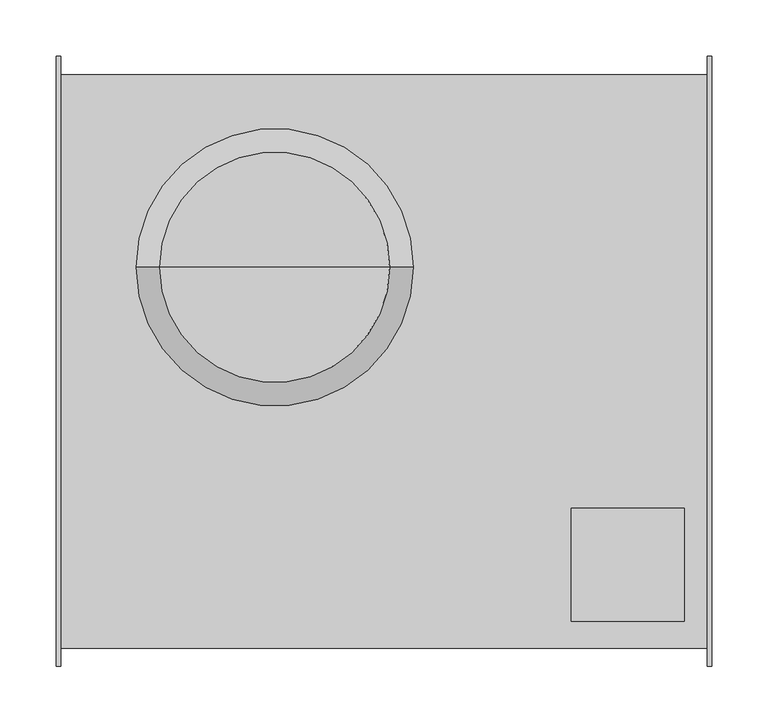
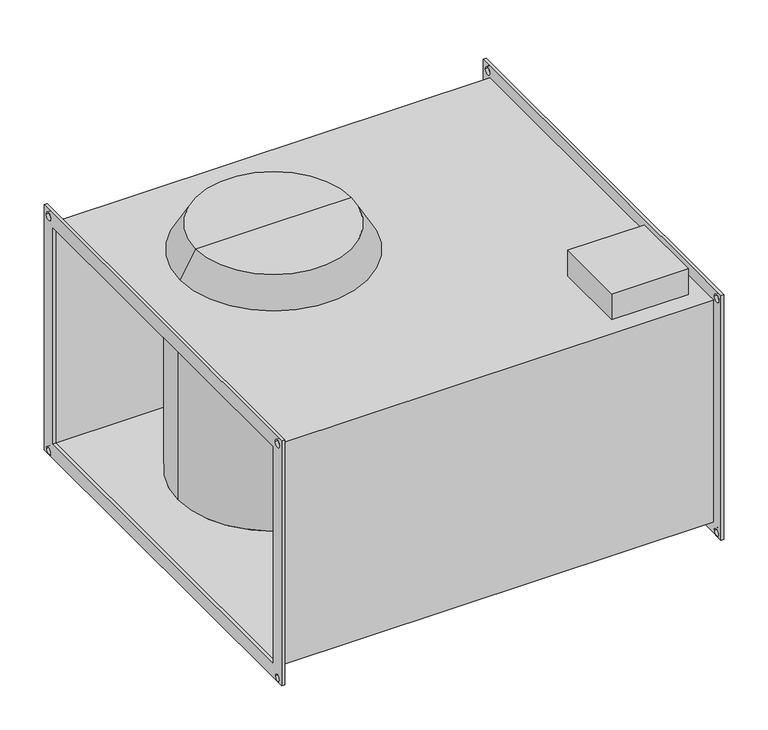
"""IFC4 building model written with IfcOpenShell, lengths in millimetres: proxy geometry."""

import ifcopenshell
import ifcopenshell.guid

model = None  # the IFC model being written
_history = None  # IfcOwnerHistory: only IFC2X3 demands one
_inside = {}  # id of a spatial element -> (the spatial element, [elements in it])
_under = {}  # id of a project, library or spatial element -> (it, [spatial elements below it])
_declared = {}  # id of a project -> (the project, [libraries it declares])
_typed = {}  # id of a type object -> (the type object, [elements of that type])
_made_of = {}  # id of a material, layer set ... -> (it, [elements and type objects made of it])


def new_model(schema):
    """Start an empty IFC model of exactly this schema.

    Asked for "IFC4X3", IfcOpenShell would pick the latest addendum, in which some entities
    have other attributes; the version numbers below select the first issue.
    IFC2X3 requires an IfcOwnerHistory on every rooted entity: one is made here for all.
    """
    global model, _history
    if schema == "IFC4X3":
        model = ifcopenshell.file(schema_version=(4, 3, 0, 0))
    else:
        model = ifcopenshell.file(schema=schema)
    _inside.clear()
    _under.clear()
    _declared.clear()
    _typed.clear()
    _made_of.clear()
    _history = None
    if model.schema == "IFC2X3":
        org = make("IfcOrganization", Name="unknown")
        user = make(
            "IfcPersonAndOrganization",
            ThePerson=make("IfcPerson", FamilyName="unknown"),
            TheOrganization=org,
        )
        app = make(
            "IfcApplication",
            ApplicationDeveloper=org,
            Version="unknown",
            ApplicationFullName="unknown",
            ApplicationIdentifier="unknown",
        )
        _history = make(
            "IfcOwnerHistory",
            OwningUser=user,
            OwningApplication=app,
            ChangeAction="ADDED",
            CreationDate=0,
        )
    return model


def make(cls, **values):
    """One entity of the class cls with the attributes given. An attribute that is None is left unset."""
    return model.create_entity(
        cls, **{name: value for name, value in values.items() if value is not None}
    )


def rooted(cls, **values):
    """An entity with a GlobalId (a new one), such as an element, a storey or a relation."""
    return make(cls, GlobalId=ifcopenshell.guid.new(), OwnerHistory=_history, **values)


def si_unit(unit_type, name, prefix=None):
    """IfcSIUnit, for example si_unit("LENGTHUNIT", "METRE", prefix="MILLI")."""
    return make("IfcSIUnit", UnitType=unit_type, Prefix=prefix, Name=name)


def assignment(units):
    """IfcUnitAssignment: the units of a project."""
    return None if units is None else make("IfcUnitAssignment", Units=units)


def point(xyz):
    """IfcCartesianPoint."""
    return None if xyz is None else make("IfcCartesianPoint", Coordinates=xyz)


def direction(xyz):
    """IfcDirection."""
    return None if xyz is None else make("IfcDirection", DirectionRatios=xyz)


def frame(location, z_axis=None, x_axis=None):
    """IfcAxis2Placement3D, a coordinate frame: its origin and axes. An axis left out is left unset."""
    return make(
        "IfcAxis2Placement3D",
        Location=point(location),
        Axis=direction(z_axis),
        RefDirection=direction(x_axis),
    )


def origin():
    """The frame at (0, 0, 0) with its axes left unset."""
    return frame((0.0, 0.0, 0.0))


def place(relative_to, where):
    """IfcLocalPlacement: puts the frame where relative to a parent placement (None: the world)."""
    return make(
        "IfcLocalPlacement", PlacementRelTo=relative_to, RelativePlacement=where
    )


def context(
    kind, dimensions, precision=None, world=None, true_north=None, identifier=None
):
    """IfcGeometricRepresentationContext, for example the 3D "Model" context."""
    return make(
        "IfcGeometricRepresentationContext",
        ContextIdentifier=identifier,
        ContextType=kind,
        CoordinateSpaceDimension=dimensions,
        Precision=precision,
        WorldCoordinateSystem=world,
        TrueNorth=true_north,
    )


def project(units=None, contexts=None):
    """IfcProject with its units and contexts."""
    return rooted(
        "IfcProject",
        Name="project",
        RepresentationContexts=contexts,
        UnitsInContext=assignment(units),
    )


def spatial(cls, under=None, at=None, **own):
    """A site, building, storey or space (cls), placed at a placement, below another one or the project."""
    s = rooted(cls, ObjectPlacement=at, **own)
    if under is not None:
        _under.setdefault(under.id(), (under, []))[1].append(s)
    return s


def polyline(points):
    """IfcPolyline through the points."""
    return make("IfcPolyline", Points=[point(p) for p in points])


def circle_curve(where, radius):
    """IfcCircle in the frame where."""
    return make("IfcCircle", Position=where, Radius=radius)


def shape(context_of_items, identifier, shape_type, items):
    """IfcShapeRepresentation: the items that make up one representation, for example the "Body"."""
    return make(
        "IfcShapeRepresentation",
        ContextOfItems=context_of_items,
        RepresentationIdentifier=identifier,
        RepresentationType=shape_type,
        Items=items,
    )


def source(mapping_origin, context_of_items, identifier, shape_type, items):
    """IfcRepresentationMap: a shape defined once, which mapped items show again and again."""
    return make(
        "IfcRepresentationMap",
        MappingOrigin=mapping_origin,
        MappedRepresentation=shape(context_of_items, identifier, shape_type, items),
    )


def transform(
    local_origin,
    x_axis=None,
    y_axis=None,
    z_axis=None,
    scale=None,
    scale2=None,
    scale3=None,
    uniform=True,
):
    """IfcCartesianTransformationOperator3D, or its non-uniform kind. x_axis, y_axis, z_axis: its Axis1, 2, 3."""
    if uniform:
        return make(
            "IfcCartesianTransformationOperator3D",
            Axis1=direction(x_axis),
            Axis2=direction(y_axis),
            LocalOrigin=point(local_origin),
            Scale=scale,
            Axis3=direction(z_axis),
        )
    return make(
        "IfcCartesianTransformationOperator3DnonUniform",
        Axis1=direction(x_axis),
        Axis2=direction(y_axis),
        LocalOrigin=point(local_origin),
        Scale=scale,
        Axis3=direction(z_axis),
        Scale2=scale2,
        Scale3=scale3,
    )


def mapped(mapping_source, mapping_target):
    """IfcMappedItem: shows the shape of a source again, moved by a transform."""
    return make(
        "IfcMappedItem", MappingSource=mapping_source, MappingTarget=mapping_target
    )


def made_of(thing, what):
    """Note that an element or type object is made of a material, layer set ...; save() writes the relation."""
    if what is not None:
        _made_of.setdefault(what.id(), (what, []))[1].append(thing)
    return thing


def element(
    cls,
    number,
    at=None,
    inside=None,
    cuts=None,
    type_object=None,
    material=None,
    context=None,
    identifier="Body",
    shape_type=None,
    held_by="IfcProductDefinitionShape",
    body=None,
    shapes=None,
    **own,
):
    """One element of the class cls, such as IfcWall. Its Tag is "e" and its number.

    at: its placement. inside: the storey or other place that contains it. cuts: it is an
    opening in that element (IfcRelVoidsElement). A single representation is given by context,
    identifier, shape_type and body (its items); several are given by shapes. held_by: the class
    of the entity that holds the representations. save() writes the other relations.
    """
    e = rooted(cls, Tag="e%d" % number, ObjectPlacement=at, **own)
    if body is not None:
        shapes = [shape(context, identifier, shape_type, body)]
    if shapes is not None:
        e.Representation = make(held_by, Representations=shapes)
    if inside is not None:
        _inside.setdefault(inside.id(), (inside, []))[1].append(e)
    if cuts is not None:
        rooted(
            "IfcRelVoidsElement", RelatingBuildingElement=cuts, RelatedOpeningElement=e
        )
    if type_object is not None:
        _typed.setdefault(type_object.id(), (type_object, []))[1].append(e)
    return made_of(e, material)


def aggregate(whole, parts):
    """IfcRelAggregates: a whole, such as a stair, and the parts it consists of."""
    return rooted("IfcRelAggregates", RelatingObject=whole, RelatedObjects=parts)


def save(model, path):
    """Write the relations noted so far, then the file.

    IfcRelAggregates (storeys below a building ...), IfcRelContainedInSpatialStructure (elements
    in a storey), IfcRelDefinesByType, IfcRelAssociatesMaterial and IfcRelDeclares: one each for
    every whole, place, type object, material and project.
    """
    for whole, parts in _under.values():
        aggregate(whole, parts)
    for where, things in _inside.values():
        rooted(
            "IfcRelContainedInSpatialStructure",
            RelatedElements=things,
            RelatingStructure=where,
        )
    for kind, things in _typed.values():
        rooted("IfcRelDefinesByType", RelatedObjects=things, RelatingType=kind)
    for what, things in _made_of.values():
        rooted("IfcRelAssociatesMaterial", RelatedObjects=things, RelatingMaterial=what)
    for by, libraries in _declared.values():
        rooted("IfcRelDeclares", RelatingContext=by, RelatedDefinitions=libraries)
    model.write(path)


def plane_surface(at):
    """IfcPlane: the flat surface through the origin of the frame at, square to its z axis."""
    return make("IfcPlane", Position=at)


def cylinder_surface(at, radius):
    """IfcCylindricalSurface: all points at the distance radius from the z axis of the frame at."""
    return make("IfcCylindricalSurface", Position=at, Radius=radius)


def revolved_surface(curve, axis_point, axis_direction):
    """IfcSurfaceOfRevolution: the curve turned about the line through axis_point along axis_direction."""
    return make(
        "IfcSurfaceOfRevolution",
        SweptCurve=make("IfcArbitraryOpenProfileDef", ProfileType="CURVE", Curve=curve),
        AxisPosition=make("IfcAxis1Placement", Location=point(axis_point), Axis=direction(axis_direction)),
    )


def advanced_brep(points, edges, surfaces, faces):
    """IfcAdvancedBrep: a solid bounded by faces that lie on surfaces and meet in shared edges.

    An edge is (start, end): straight between two places in points (the first is 0);
    or (start, end, curve); or (start, end, curve, False) where it runs against its curve.
    A face is (place in surfaces, loops), or (place, loops, False) where it looks against
    its surface's normal. A loop lists edges by number (the first is 1), with a minus sign
    where the edge is run from its end to its start. The first loop is the outer one.
    """
    corners = [point(p) for p in points]
    vertices = [make("IfcVertexPoint", VertexGeometry=c) for c in corners]
    made = []
    for start, end, *more in edges:
        made.append(
            make(
                "IfcEdgeCurve",
                EdgeStart=vertices[start],
                EdgeEnd=vertices[end],
                EdgeGeometry=more[0] if more else make("IfcPolyline", Points=[corners[start], corners[end]]),
                SameSense=more[1] if len(more) > 1 else True,
            )
        )
    hull = []
    for where, loops, *sense in faces:
        bounds = []
        for j, loop in enumerate(loops):
            ring = [make("IfcOrientedEdge", EdgeElement=made[abs(k) - 1], Orientation=k > 0) for k in loop]
            bounds.append(
                make(
                    "IfcFaceOuterBound" if j == 0 else "IfcFaceBound",
                    Bound=make("IfcEdgeLoop", EdgeList=ring),
                    Orientation=True,
                )
            )
        hull.append(make("IfcAdvancedFace", Bounds=bounds, FaceSurface=surfaces[where], SameSense=sense[0] if sense else True))
    return make("IfcAdvancedBrep", Outer=make("IfcClosedShell", CfsFaces=hull))


def mechanical_equipment_16ef5390(model_context):
    return source(origin(), model_context, "Body", "AdvancedBrep", [
        advanced_brep(
        [(286.0, 270.0, 170.0), (286.0, 270.0, -170.0), (286.0, 260.0, -170.0), (286.0, 265.0, -165.0), (286.0, 255.0, -165.0), (286.0, -260.0, -170.0), (286.0, -255.0, -165.0), (286.0, -265.0, -165.0), (286.0, -270.0, -170.0), (286.0, -270.0, 170.0), (286.0, 250.0, 150.0), (286.0, -250.0, 150.0), (286.0, -250.0, -150.0), (286.0, 250.0, -150.0), (286.0, 255.0, 160.0), (286.0, 265.0, 160.0), (286.0, -265.0, 160.0), (286.0, -255.0, 160.0), (290.0, 270.0, 170.0), (290.0, -270.0, 170.0), (290.0, -270.0, -170.0), (290.0, -260.0, -170.0), (290.0, -265.0, -165.0), (290.0, -255.0, -165.0), (290.0, 260.0, -170.0), (290.0, 255.0, -165.0), (290.0, 265.0, -165.0), (290.0, 270.0, -170.0), (290.0, 250.0, 150.0), (290.0, 250.0, -150.0), (290.0, -250.0, -150.0), (290.0, -250.0, 150.0), (290.0, 265.0, 160.0), (290.0, 255.0, 160.0), (290.0, -255.0, 160.0), (290.0, -265.0, 160.0)],
        [
            (0, 1),
            (1, 2),
            (2, 3, circle_curve(frame((286.0, 260.0, -165.0), z_axis=(1.0, 0.0, 0.0), x_axis=(0.0, 1.0, 0.0)), 5.0)),
            (3, 4, circle_curve(frame((286.0, 260.0, -165.0), z_axis=(1.0, 0.0, 0.0), x_axis=(0.0, 1.0, 0.0)), 5.0)),
            (4, 2, circle_curve(frame((286.0, 260.0, -165.0), z_axis=(1.0, 0.0, 0.0), x_axis=(0.0, 1.0, 0.0)), 5.0)),
            (2, 5),
            (5, 6, circle_curve(frame((286.0, -260.0, -165.0), z_axis=(1.0, 0.0, 0.0), x_axis=(0.0, 1.0, 0.0)), 5.0)),
            (6, 7, circle_curve(frame((286.0, -260.0, -165.0), z_axis=(1.0, 0.0, 0.0), x_axis=(0.0, 1.0, 0.0)), 5.0)),
            (7, 5, circle_curve(frame((286.0, -260.0, -165.0), z_axis=(1.0, 0.0, 0.0), x_axis=(0.0, 1.0, 0.0)), 5.0)),
            (5, 8),
            (8, 9),
            (9, 0),
            (10, 11),
            (11, 12),
            (12, 13),
            (13, 10),
            (14, 15, circle_curve(frame((286.0, 260.0, 160.0), z_axis=(1.0, 0.0, 0.0), x_axis=(0.0, 1.0, 0.0)), 5.0)),
            (15, 14, circle_curve(frame((286.0, 260.0, 160.0), z_axis=(1.0, 0.0, 0.0), x_axis=(0.0, 1.0, 0.0)), 5.0)),
            (16, 17, circle_curve(frame((286.0, -260.0, 160.0), z_axis=(1.0, 0.0, 0.0), x_axis=(0.0, 1.0, 0.0)), 5.0)),
            (17, 16, circle_curve(frame((286.0, -260.0, 160.0), z_axis=(1.0, 0.0, 0.0), x_axis=(0.0, 1.0, 0.0)), 5.0)),
            (18, 19),
            (19, 20),
            (20, 21),
            (21, 22, circle_curve(frame((290.0, -260.0, -165.0), z_axis=(-1.0, 0.0, 0.0), x_axis=(0.0, 1.0, 0.0)), 5.0)),
            (22, 23, circle_curve(frame((290.0, -260.0, -165.0), z_axis=(-1.0, 0.0, 0.0), x_axis=(0.0, 1.0, 0.0)), 5.0)),
            (23, 21, circle_curve(frame((290.0, -260.0, -165.0), z_axis=(-1.0, 0.0, 0.0), x_axis=(0.0, 1.0, 0.0)), 5.0)),
            (21, 24),
            (24, 25, circle_curve(frame((290.0, 260.0, -165.0), z_axis=(-1.0, 0.0, 0.0), x_axis=(0.0, 1.0, 0.0)), 5.0)),
            (25, 26, circle_curve(frame((290.0, 260.0, -165.0), z_axis=(-1.0, 0.0, 0.0), x_axis=(0.0, 1.0, 0.0)), 5.0)),
            (26, 24, circle_curve(frame((290.0, 260.0, -165.0), z_axis=(-1.0, 0.0, 0.0), x_axis=(0.0, 1.0, 0.0)), 5.0)),
            (24, 27),
            (27, 18),
            (28, 29),
            (29, 30),
            (30, 31),
            (31, 28),
            (32, 33, circle_curve(frame((290.0, 260.0, 160.0), z_axis=(-1.0, 0.0, 0.0), x_axis=(0.0, 1.0, 0.0)), 5.0)),
            (33, 32, circle_curve(frame((290.0, 260.0, 160.0), z_axis=(-1.0, 0.0, 0.0), x_axis=(0.0, 1.0, 0.0)), 5.0)),
            (34, 35, circle_curve(frame((290.0, -260.0, 160.0), z_axis=(-1.0, 0.0, 0.0), x_axis=(0.0, 1.0, 0.0)), 5.0)),
            (35, 34, circle_curve(frame((290.0, -260.0, 160.0), z_axis=(-1.0, 0.0, 0.0), x_axis=(0.0, 1.0, 0.0)), 5.0)),
            (13, 29),
            (28, 10),
            (12, 30),
            (11, 31),
            (9, 19),
            (18, 0),
            (8, 20),
            (1, 27),
            (14, 33),
            (32, 15),
            (16, 35),
            (34, 17),
            (7, 22),
            (23, 6),
            (4, 25),
            (26, 3),
        ],
        [
            plane_surface(frame((286.0, 250.0, -150.0), z_axis=(-1.0, 0.0, 0.0), x_axis=(0.0, 0.0, 1.0))),
            plane_surface(frame((290.0, 250.0, -150.0), z_axis=(1.0, 0.0, 0.0), x_axis=(0.0, 0.0, -1.0))),
            plane_surface(frame((290.0, 250.0, 150.0), z_axis=(0.0, -1.0, 0.0), x_axis=(-1.0, 0.0, 0.0))),
            plane_surface(frame((290.0, 250.0, -150.0), z_axis=(0.0, 0.0, 1.0), x_axis=(-1.0, 0.0, 0.0))),
            plane_surface(frame((290.0, -250.0, -150.0), z_axis=(0.0, 1.0, 0.0), x_axis=(-1.0, 0.0, 0.0))),
            plane_surface(frame((290.0, -250.0, 150.0), z_axis=(0.0, 0.0, -1.0), x_axis=(-1.0, 0.0, 0.0))),
            plane_surface(frame((290.0, 270.0, 170.0), z_axis=(0.0, 0.0, 1.0), x_axis=(-1.0, 0.0, 0.0))),
            plane_surface(frame((290.0, -270.0, 170.0), z_axis=(0.0, -1.0, 0.0), x_axis=(-1.0, 0.0, 0.0))),
            plane_surface(frame((290.0, -270.0, -170.0), z_axis=(0.0, 0.0, -1.0), x_axis=(-1.0, 0.0, 0.0))),
            plane_surface(frame((290.0, 270.0, -170.0), z_axis=(0.0, 1.0, 0.0), x_axis=(-1.0, 0.0, 0.0))),
            revolved_surface(polyline([(290.0, 265.0, 160.0), (286.0, 265.0, 160.0)]), (-290.0, 260.0, 160.0), (1.0, 0.0, 0.0)),
            revolved_surface(polyline([(290.0, -255.0, 160.0), (286.0, -255.0, 160.0)]), (0.0, -260.0, 160.0), (1.0, 0.0, 0.0)),
            revolved_surface(polyline([(290.0, -255.0, -165.0), (286.0, -255.0, -165.0)]), (0.0, -260.0, -165.0), (1.0, 0.0, 0.0)),
            revolved_surface(polyline([(290.0, 265.0, -165.0), (286.0, 265.0, -165.0)]), (0.0, 260.0, -165.0), (1.0, 0.0, 0.0)),
        ],
        [
            (0, [[1, 2, 3, 4, 5, 6, 7, 8, 9, 10, 11, 12], [13, 14, 15, 16], [17, 18], [19, 20]]),
            (1, [[21, 22, 23, 24, 25, 26, 27, 28, 29, 30, 31, 32], [33, 34, 35, 36], [37, 38], [39, 40]]),
            (2, [[-16, 41, -33, 42]]),
            (3, [[-15, 43, -34, -41]]),
            (4, [[-14, 44, -35, -43]]),
            (5, [[-13, -42, -36, -44]]),
            (6, [[-12, 45, -21, 46]]),
            (7, [[-11, 47, -22, -45]]),
            (8, [[-47, -10, -6, -2, 48, -31, -27, -23]]),
            (9, [[-1, -46, -32, -48]]),
            (10, [[49, -37, 50, -17]]),
            (10, [[-49, -18, -50, -38]]),
            (11, [[51, -39, 52, -19]]),
            (11, [[-51, -20, -52, -40]]),
            (12, [[53, -24, -26, 54, -7, -9]]),
            (12, [[-53, -8, -54, -25]]),
            (13, [[55, -28, -30, 56, -3, -5]]),
            (13, [[-55, -4, -56, -29]]),
        ],
    ),
        advanced_brep(
        [(-290.0, -270.0, 170.0), (-290.0, 270.0, 170.0), (-290.0, 270.0, -170.0), (-290.0, 260.0, -170.0), (-290.0, 265.0, -165.0), (-290.0, 255.0, -165.0), (-290.0, -260.0, -170.0), (-290.0, -255.0, -165.0), (-290.0, -265.0, -165.0), (-290.0, -270.0, -170.0), (-290.0, -250.0, 150.0), (-290.0, -250.0, -150.0), (-290.0, 250.0, -150.0), (-290.0, 250.0, 150.0), (-290.0, 255.0, 160.0), (-290.0, 265.0, 160.0), (-290.0, -265.0, 160.0), (-290.0, -255.0, 160.0), (-286.0, -270.0, 170.0), (-286.0, -270.0, -170.0), (-286.0, -260.0, -170.0), (-286.0, -265.0, -165.0), (-286.0, -255.0, -165.0), (-286.0, 260.0, -170.0), (-286.0, 255.0, -165.0), (-286.0, 265.0, -165.0), (-286.0, 270.0, -170.0), (-286.0, 270.0, 170.0), (-286.0, -250.0, 150.0), (-286.0, 250.0, 150.0), (-286.0, 250.0, -150.0), (-286.0, -250.0, -150.0), (-286.0, 265.0, 160.0), (-286.0, 255.0, 160.0), (-286.0, -255.0, 160.0), (-286.0, -265.0, 160.0)],
        [
            (0, 1),
            (1, 2),
            (2, 3),
            (3, 4, circle_curve(frame((-290.0, 260.0, -165.0), z_axis=(1.0, 0.0, 0.0), x_axis=(0.0, 1.0, 0.0)), 5.0)),
            (4, 5, circle_curve(frame((-290.0, 260.0, -165.0), z_axis=(1.0, 0.0, 0.0), x_axis=(0.0, 1.0, 0.0)), 5.0)),
            (5, 3, circle_curve(frame((-290.0, 260.0, -165.0), z_axis=(1.0, 0.0, 0.0), x_axis=(0.0, 1.0, 0.0)), 5.0)),
            (3, 6),
            (6, 7, circle_curve(frame((-290.0, -260.0, -165.0), z_axis=(1.0, 0.0, 0.0), x_axis=(0.0, 1.0, 0.0)), 5.0)),
            (7, 8, circle_curve(frame((-290.0, -260.0, -165.0), z_axis=(1.0, 0.0, 0.0), x_axis=(0.0, 1.0, 0.0)), 5.0)),
            (8, 6, circle_curve(frame((-290.0, -260.0, -165.0), z_axis=(1.0, 0.0, 0.0), x_axis=(0.0, 1.0, 0.0)), 5.0)),
            (6, 9),
            (9, 0),
            (10, 11),
            (11, 12),
            (12, 13),
            (13, 10),
            (14, 15, circle_curve(frame((-290.0, 260.0, 160.0), z_axis=(1.0, 0.0, 0.0), x_axis=(0.0, 1.0, 0.0)), 5.0)),
            (15, 14, circle_curve(frame((-290.0, 260.0, 160.0), z_axis=(1.0, 0.0, 0.0), x_axis=(0.0, 1.0, 0.0)), 5.0)),
            (16, 17, circle_curve(frame((-290.0, -260.0, 160.0), z_axis=(1.0, 0.0, 0.0), x_axis=(0.0, 1.0, 0.0)), 5.0)),
            (17, 16, circle_curve(frame((-290.0, -260.0, 160.0), z_axis=(1.0, 0.0, 0.0), x_axis=(0.0, 1.0, 0.0)), 5.0)),
            (18, 19),
            (19, 20),
            (20, 21, circle_curve(frame((-286.0, -260.0, -165.0), z_axis=(-1.0, 0.0, 0.0), x_axis=(0.0, 1.0, 0.0)), 5.0)),
            (21, 22, circle_curve(frame((-286.0, -260.0, -165.0), z_axis=(-1.0, 0.0, 0.0), x_axis=(0.0, 1.0, 0.0)), 5.0)),
            (22, 20, circle_curve(frame((-286.0, -260.0, -165.0), z_axis=(-1.0, 0.0, 0.0), x_axis=(0.0, 1.0, 0.0)), 5.0)),
            (20, 23),
            (23, 24, circle_curve(frame((-286.0, 260.0, -165.0), z_axis=(-1.0, 0.0, 0.0), x_axis=(0.0, 1.0, 0.0)), 5.0)),
            (24, 25, circle_curve(frame((-286.0, 260.0, -165.0), z_axis=(-1.0, 0.0, 0.0), x_axis=(0.0, 1.0, 0.0)), 5.0)),
            (25, 23, circle_curve(frame((-286.0, 260.0, -165.0), z_axis=(-1.0, 0.0, 0.0), x_axis=(0.0, 1.0, 0.0)), 5.0)),
            (23, 26),
            (26, 27),
            (27, 18),
            (28, 29),
            (29, 30),
            (30, 31),
            (31, 28),
            (32, 33, circle_curve(frame((-286.0, 260.0, 160.0), z_axis=(-1.0, 0.0, 0.0), x_axis=(0.0, 1.0, 0.0)), 5.0)),
            (33, 32, circle_curve(frame((-286.0, 260.0, 160.0), z_axis=(-1.0, 0.0, 0.0), x_axis=(0.0, 1.0, 0.0)), 5.0)),
            (34, 35, circle_curve(frame((-286.0, -260.0, 160.0), z_axis=(-1.0, 0.0, 0.0), x_axis=(0.0, 1.0, 0.0)), 5.0)),
            (35, 34, circle_curve(frame((-286.0, -260.0, 160.0), z_axis=(-1.0, 0.0, 0.0), x_axis=(0.0, 1.0, 0.0)), 5.0)),
            (9, 19),
            (18, 0),
            (2, 26),
            (1, 27),
            (13, 29),
            (28, 10),
            (12, 30),
            (11, 31),
            (14, 33),
            (32, 15),
            (16, 35),
            (34, 17),
            (8, 21),
            (22, 7),
            (5, 24),
            (25, 4),
        ],
        [
            plane_surface(frame((-290.0, -270.0, 170.0), z_axis=(-1.0, 0.0, 0.0), x_axis=(0.0, 0.0, 1.0))),
            plane_surface(frame((-286.0, -270.0, 170.0), z_axis=(1.0, 0.0, 0.0), x_axis=(0.0, 0.0, -1.0))),
            plane_surface(frame((-286.0, -270.0, 170.0), z_axis=(0.0, -1.0, 0.0), x_axis=(-1.0, 0.0, 0.0))),
            plane_surface(frame((-286.0, -270.0, -170.0), z_axis=(0.0, 0.0, -1.0), x_axis=(-1.0, 0.0, 0.0))),
            plane_surface(frame((-286.0, 270.0, -170.0), z_axis=(0.0, 1.0, 0.0), x_axis=(-1.0, 0.0, 0.0))),
            plane_surface(frame((-286.0, 270.0, 170.0), z_axis=(0.0, 0.0, 1.0), x_axis=(-1.0, 0.0, 0.0))),
            plane_surface(frame((-286.0, -250.0, 150.0), z_axis=(0.0, 0.0, -1.0), x_axis=(-1.0, 0.0, 0.0))),
            plane_surface(frame((-286.0, 250.0, 150.0), z_axis=(0.0, -1.0, 0.0), x_axis=(-1.0, 0.0, 0.0))),
            plane_surface(frame((-286.0, 250.0, -150.0), z_axis=(0.0, 0.0, 1.0), x_axis=(-1.0, 0.0, 0.0))),
            plane_surface(frame((-286.0, -250.0, -150.0), z_axis=(0.0, 1.0, 0.0), x_axis=(-1.0, 0.0, 0.0))),
            revolved_surface(polyline([(-286.0, 265.0, 160.0), (-290.0, 265.0, 160.0)]), (-290.0, 260.0, 160.0), (1.0, 0.0, 0.0)),
            revolved_surface(polyline([(-286.0, -255.0, 160.0), (-290.0, -255.0, 160.0)]), (0.0, -260.0, 160.0), (1.0, 0.0, 0.0)),
            revolved_surface(polyline([(-286.0, -255.0, -165.0), (-290.0, -255.0, -165.0)]), (0.0, -260.0, -165.0), (1.0, 0.0, 0.0)),
            revolved_surface(polyline([(-286.0, 265.0, -165.0), (-290.0, 265.0, -165.0)]), (0.0, 260.0, -165.0), (1.0, 0.0, 0.0)),
        ],
        [
            (0, [[1, 2, 3, 4, 5, 6, 7, 8, 9, 10, 11, 12], [13, 14, 15, 16], [17, 18], [19, 20]]),
            (1, [[21, 22, 23, 24, 25, 26, 27, 28, 29, 30, 31, 32], [33, 34, 35, 36], [37, 38], [39, 40]]),
            (2, [[-12, 41, -21, 42]]),
            (3, [[-41, -11, -7, -3, 43, -30, -26, -22]]),
            (4, [[-2, 44, -31, -43]]),
            (5, [[-1, -42, -32, -44]]),
            (6, [[-16, 45, -33, 46]]),
            (7, [[-15, 47, -34, -45]]),
            (8, [[-14, 48, -35, -47]]),
            (9, [[-13, -46, -36, -48]]),
            (10, [[49, -37, 50, -17]]),
            (10, [[-49, -18, -50, -38]]),
            (11, [[51, -39, 52, -19]]),
            (11, [[-51, -20, -52, -40]]),
            (12, [[53, -23, -25, 54, -8, -10]]),
            (12, [[-53, -9, -54, -24]]),
            (13, [[55, -27, -29, 56, -4, -6]]),
            (13, [[-55, -5, -56, -28]]),
        ],
    ),
        advanced_brep(
        [(-96.6666667, 83.3333333, 190.0), (-198.5726559, 83.3333333, 190.0), (5.2393226, 83.3333333, 190.0), (-221.6666667, 83.3333333, 150.0), (-221.6666667, 83.3333333, -150.0), (28.3333333, 83.3333333, -150.0), (28.3333333, 83.3333333, 150.0), (286.0, -254.0, 154.0), (286.0, -254.0, -154.0), (286.0, 254.0, -154.0), (286.0, 254.0, 154.0), (286.0, 250.0, 150.0), (286.0, 250.0, -150.0), (286.0, -250.0, -150.0), (286.0, -250.0, 150.0), (-286.0, -254.0, 154.0), (-286.0, 254.0, 154.0), (-286.0, 254.0, -154.0), (-286.0, -254.0, -154.0), (-286.0, 250.0, 150.0), (-286.0, -250.0, 150.0), (-286.0, -250.0, -150.0), (-286.0, 250.0, -150.0), (166.0, -130.0, 154.0), (266.0, -130.0, 154.0), (266.0, -230.0, 154.0), (166.0, -230.0, 154.0), (26.0239323, 83.3333333, 154.0), (-219.3572656, 83.3333333, 154.0), (266.0, -130.0, 190.0), (166.0, -130.0, 190.0), (166.0, -230.0, 190.0), (266.0, -230.0, 190.0)],
        [
            (0, 1),
            (1, 2, circle_curve(frame((-96.6666667, 83.3333333, 190.0), z_axis=(0.0, 0.0, 1.0), x_axis=(-1.0, 0.0, 0.0)), 101.9059892)),
            (2, 0),
            (2, 1, circle_curve(frame((-96.6666667, 83.3333333, 190.0), z_axis=(0.0, 0.0, 1.0), x_axis=(-1.0, 0.0, 0.0)), 101.9059892)),
            (3, 4),
            (4, 5, circle_curve(frame((-96.6666667, 83.3333333, -150.0), z_axis=(0.0, 0.0, 1.0), x_axis=(-1.0, 0.0, 0.0)), 125.0)),
            (5, 6),
            (6, 3, circle_curve(frame((-96.6666667, 83.3333333, 150.0), z_axis=(0.0, 0.0, -1.0), x_axis=(-1.0, 0.0, 0.0)), 125.0)),
            (3, 6, circle_curve(frame((-96.6666667, 83.3333333, 150.0), z_axis=(0.0, 0.0, -1.0), x_axis=(-1.0, 0.0, 0.0)), 125.0)),
            (5, 4, circle_curve(frame((-96.6666667, 83.3333333, -150.0), z_axis=(0.0, 0.0, 1.0), x_axis=(-1.0, 0.0, 0.0)), 125.0)),
            (7, 8),
            (8, 9),
            (9, 10),
            (10, 7),
            (11, 12),
            (12, 13),
            (13, 14),
            (14, 11),
            (15, 16),
            (16, 17),
            (17, 18),
            (18, 15),
            (19, 20),
            (20, 21),
            (21, 22),
            (22, 19),
            (11, 19),
            (22, 12),
            (21, 13),
            (20, 14),
            (7, 15),
            (18, 8),
            (17, 9),
            (16, 10),
            (23, 24),
            (24, 25),
            (25, 26),
            (26, 23),
            (27, 28, circle_curve(frame((-96.6666667, 83.3333333, 154.0), z_axis=(0.0, 0.0, -1.0), x_axis=(-1.0, 0.0, 0.0)), 122.6905989)),
            (28, 27, circle_curve(frame((-96.6666667, 83.3333333, 154.0), z_axis=(0.0, 0.0, -1.0), x_axis=(-1.0, 0.0, 0.0)), 122.6905989)),
            (29, 30),
            (30, 31),
            (31, 32),
            (32, 29),
            (29, 24),
            (23, 30),
            (26, 31),
            (25, 32),
            (1, 28),
            (27, 2),
        ],
        [
            plane_surface(frame((-96.6666667, 83.3333333, 190.0), z_axis=(0.0, 0.0, 1.0), x_axis=(-1.0, 0.0, 0.0))),
            cylinder_surface(frame((-96.6666667, 83.3333333, 2314.3096565), z_axis=(0.0, 0.0, 1.0), x_axis=(-1.0, 0.0, 0.0)), 125.0),
            plane_surface(frame((286.0, 250.0, -150.0), z_axis=(1.0, 0.0, 0.0), x_axis=(0.0, 0.0, -1.0))),
            plane_surface(frame((-286.0, 250.0, -150.0), z_axis=(-1.0, 0.0, 0.0), x_axis=(0.0, 0.0, 1.0))),
            plane_surface(frame((286.0, 250.0, 150.0), z_axis=(0.0, -1.0, 0.0), x_axis=(-1.0, 0.0, 0.0))),
            plane_surface(frame((286.0, 250.0, -150.0), z_axis=(0.0, 0.0, 1.0), x_axis=(-1.0, 0.0, 0.0))),
            plane_surface(frame((286.0, -250.0, -150.0), z_axis=(0.0, 1.0, 0.0), x_axis=(-1.0, 0.0, 0.0))),
            plane_surface(frame((286.0, -250.0, 150.0), z_axis=(0.0, 0.0, -1.0), x_axis=(-1.0, 0.0, 0.0))),
            plane_surface(frame((286.0, -254.0, 154.0), z_axis=(0.0, -1.0, 0.0), x_axis=(-1.0, 0.0, 0.0))),
            plane_surface(frame((286.0, -254.0, -154.0), z_axis=(0.0, 0.0, -1.0), x_axis=(-1.0, 0.0, 0.0))),
            plane_surface(frame((286.0, 254.0, -154.0), z_axis=(0.0, 1.0, 0.0), x_axis=(-1.0, 0.0, 0.0))),
            plane_surface(frame((286.0, 254.0, 154.0), z_axis=(0.0, 0.0, 1.0), x_axis=(-1.0, 0.0, 0.0))),
            plane_surface(frame((166.0, -130.0, 190.0), z_axis=(0.0, 0.0, 1.0), x_axis=(-1.0, 0.0, 0.0))),
            plane_surface(frame((266.0, -130.0, 190.0), z_axis=(0.0, 1.0, 0.0), x_axis=(0.0, 0.0, -1.0))),
            plane_surface(frame((166.0, -130.0, 190.0), z_axis=(-1.0, 0.0, 0.0), x_axis=(0.0, 0.0, -1.0))),
            plane_surface(frame((166.0, -230.0, 190.0), z_axis=(0.0, -1.0, 0.0), x_axis=(0.0, 0.0, -1.0))),
            plane_surface(frame((266.0, -230.0, 190.0), z_axis=(1.0, 0.0, 0.0), x_axis=(0.0, 0.0, -1.0))),
            revolved_surface(polyline([(-221.6666667, 83.3333333, 150.0), (-198.5726559, 83.3333333, 190.0)]), (-96.6666667, 83.3333333, 2314.3096565), (0.0, 0.0, 1.0)),
        ],
        [
            (0, [[1, 2, 3]]),
            (0, [[-1, -3, 4]]),
            (1, [[5, 6, 7, 8]]),
            (1, [[-5, 9, -7, 10]]),
            (2, [[11, 12, 13, 14], [15, 16, 17, 18]]),
            (3, [[19, 20, 21, 22], [23, 24, 25, 26]]),
            (4, [[-15, 27, -26, 28]]),
            (5, [[-16, -28, -25, 29], [-6, -10]]),
            (6, [[-17, -29, -24, 30]]),
            (7, [[-18, -30, -23, -27], [-8, -9]]),
            (8, [[-11, 31, -22, 32]]),
            (9, [[-12, -32, -21, 33]]),
            (10, [[-13, -33, -20, 34]]),
            (11, [[-14, -34, -19, -31], [35, 36, 37, 38], [39, 40]]),
            (12, [[41, 42, 43, 44]]),
            (13, [[-41, 45, -35, 46]]),
            (14, [[-42, -46, -38, 47]]),
            (15, [[-43, -47, -37, 48]]),
            (16, [[-44, -48, -36, -45]]),
            (17, [[-2, 49, -39, 50]]),
            (17, [[-4, -50, -40, -49]]),
        ],
    ),
    ])


if __name__ == "__main__":
    model = new_model("IFC4")
    model_context = context("Model", 3, world=origin())
    ifc_project = project(units=[si_unit("LENGTHUNIT", "METRE", prefix="MILLI")], contexts=[model_context])
    site = spatial("IfcSite", under=ifc_project)
    building = spatial("IfcBuilding", under=site)
    placement = place(None, origin())
    mechanical_equipment_shape = mechanical_equipment_16ef5390(model_context)
    element("IfcBuildingElementProxy", 1, Name="Mechanical Equipment", at=placement, inside=building, context=model_context, shape_type="MappedRepresentation", body=[
        mapped(mechanical_equipment_shape, transform((0.0, 0.0, 0.0), x_axis=(1.0, 0.0, 0.0), y_axis=(0.0, 1.0, 0.0), z_axis=(0.0, 0.0, 1.0))),
    ])
    save(model, "model.ifc")
